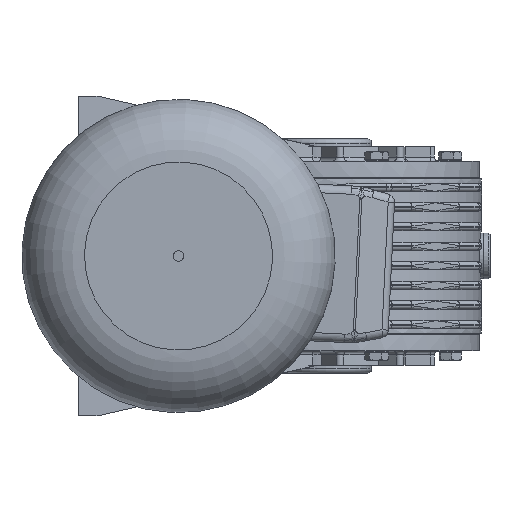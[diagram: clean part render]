
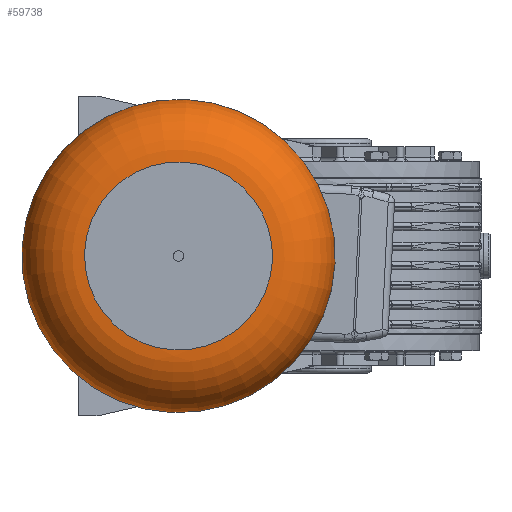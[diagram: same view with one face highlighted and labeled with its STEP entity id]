
A CAD part, left-side view. The second image highlights one B-rep face of the part: STEP entity #59738.
In plain terms, the highlighted toroidal (fillet/blend) face has major radius 45 mm and minor radius 30 mm.
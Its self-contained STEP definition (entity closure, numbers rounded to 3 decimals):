
#59711=CARTESIAN_POINT('',(314.0,0.0,0.0));
#59712=DIRECTION('',(1.0,0.0,0.0));
#59713=DIRECTION('',(0.0,0.0,-1.0));
#59714=AXIS2_PLACEMENT_3D('',#59711,#59712,#59713);
#59715=TOROIDAL_SURFACE('',#59714,45.,30.0);
#59716=CARTESIAN_POINT('',(344.,45.,0.0));
#59717=VERTEX_POINT('',#59716);
#59718=CARTESIAN_POINT('',(344.,0.0,0.0));
#59719=DIRECTION('',(1.0,0.0,0.0));
#59720=DIRECTION('',(0.0,1.0,0.0));
#59721=AXIS2_PLACEMENT_3D('',#59718,#59719,#59720);
#59722=CIRCLE('',#59721,45.);
#59723=EDGE_CURVE('',#59717,#59717,#59722,.T.);
#59724=ORIENTED_EDGE('',*,*,#59723,.F.);
#59725=EDGE_LOOP('',(#59724));
#59726=FACE_OUTER_BOUND('',#59725,.T.);
#59727=CARTESIAN_POINT('',(314.0,75.,0.0));
#59728=VERTEX_POINT('',#59727);
#59729=CARTESIAN_POINT('',(314.0,0.0,0.0));
#59730=DIRECTION('',(1.0,0.0,0.0));
#59731=DIRECTION('',(0.0,1.0,0.0));
#59732=AXIS2_PLACEMENT_3D('',#59729,#59730,#59731);
#59733=CIRCLE('',#59732,75.);
#59734=EDGE_CURVE('',#59728,#59728,#59733,.T.);
#59735=ORIENTED_EDGE('',*,*,#59734,.T.);
#59736=EDGE_LOOP('',(#59735));
#59737=FACE_BOUND('',#59736,.T.);
#59738=ADVANCED_FACE('',(#59726,#59737),#59715,.T.);
